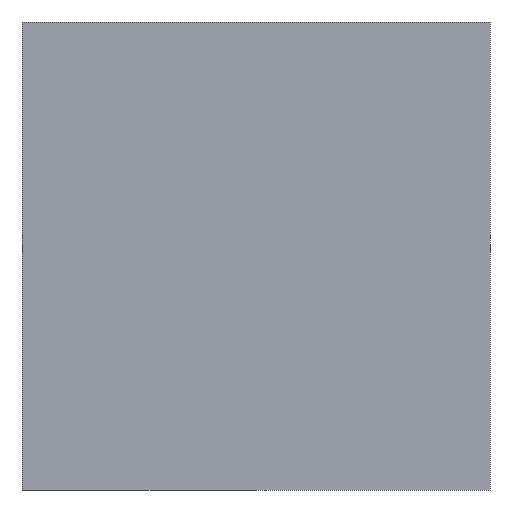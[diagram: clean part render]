
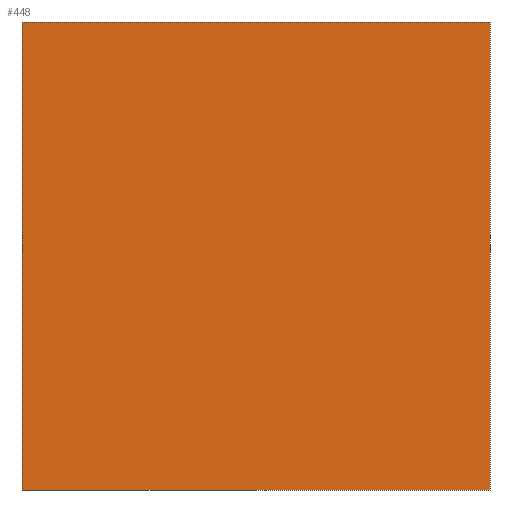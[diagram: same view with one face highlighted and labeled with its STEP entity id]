
A CAD part, left-side view. The second image highlights one B-rep face of the part: STEP entity #448.
In plain terms, the highlighted planar face has unit normal (-1, 0, 0).
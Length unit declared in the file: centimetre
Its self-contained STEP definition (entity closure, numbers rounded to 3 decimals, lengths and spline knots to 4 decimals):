
#6 = FACE_OUTER_BOUND ( 'NONE', #458, .T. ) ;
#36 = VERTEX_POINT ( 'NONE', #235 ) ;
#55 = DIRECTION ( 'NONE',  ( 0., 0., -1. ) ) ;
#58 = VECTOR ( 'NONE', #208, 100. ) ;
#65 = VECTOR ( 'NONE', #55, 100. ) ;
#76 = PLANE ( 'NONE',  #454 ) ;
#93 = EDGE_CURVE ( 'NONE', #142, #36, #151, .T. ) ;
#120 = LINE ( 'NONE', #401, #159 ) ;
#124 = ORIENTED_EDGE ( 'NONE', *, *, #520, .F. ) ;
#126 = DIRECTION ( 'NONE',  ( 0., 0., -1. ) ) ;
#142 = VERTEX_POINT ( 'NONE', #363 ) ;
#151 = LINE ( 'NONE', #432, #65 ) ;
#159 = VECTOR ( 'NONE', #380, 100. ) ;
#162 = LINE ( 'NONE', #414, #519 ) ;
#204 = CARTESIAN_POINT ( 'NONE',  ( 0., 1000., 1000. ) ) ;
#208 = DIRECTION ( 'NONE',  ( 0., 0., -1. ) ) ;
#213 = CARTESIAN_POINT ( 'NONE',  ( 0., 1000., 1000. ) ) ;
#219 = VERTEX_POINT ( 'NONE', #444 ) ;
#235 = CARTESIAN_POINT ( 'NONE',  ( 0., 0., 0. ) ) ;
#282 = DIRECTION ( 'NONE',  ( 0., -1., 0. ) ) ;
#333 = DIRECTION ( 'NONE',  ( 1., 0., 0. ) ) ;
#363 = CARTESIAN_POINT ( 'NONE',  ( 0., 0., 1000. ) ) ;
#372 = ORIENTED_EDGE ( 'NONE', *, *, #93, .F. ) ;
#380 = DIRECTION ( 'NONE',  ( 0., -1., 0. ) ) ;
#401 = CARTESIAN_POINT ( 'NONE',  ( 0., 1000., 1000. ) ) ;
#409 = ORIENTED_EDGE ( 'NONE', *, *, #510, .T. ) ;
#414 = CARTESIAN_POINT ( 'NONE',  ( 0., 1000., 0. ) ) ;
#416 = ORIENTED_EDGE ( 'NONE', *, *, #512, .T. ) ;
#432 = CARTESIAN_POINT ( 'NONE',  ( 0., 0., 1000. ) ) ;
#444 = CARTESIAN_POINT ( 'NONE',  ( 0., 1000., 0. ) ) ;
#448 = ADVANCED_FACE ( 'NONE', ( #6 ), #76, .F. ) ;
#449 = VERTEX_POINT ( 'NONE', #457 ) ;
#454 = AXIS2_PLACEMENT_3D ( 'NONE', #204, #333, #126 ) ;
#457 = CARTESIAN_POINT ( 'NONE',  ( 0., 1000., 1000. ) ) ;
#458 = EDGE_LOOP ( 'NONE', ( #409, #372, #124, #416 ) ) ;
#510 = EDGE_CURVE ( 'NONE', #219, #36, #162, .T. ) ;
#512 = EDGE_CURVE ( 'NONE', #449, #219, #524, .T. ) ;
#519 = VECTOR ( 'NONE', #282, 100. ) ;
#520 = EDGE_CURVE ( 'NONE', #449, #142, #120, .T. ) ;
#524 = LINE ( 'NONE', #213, #58 ) ;
